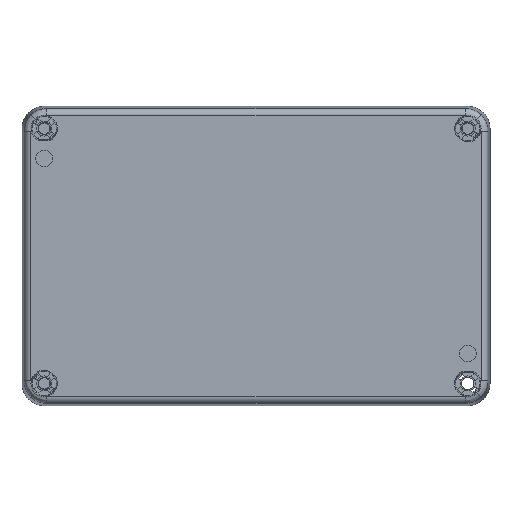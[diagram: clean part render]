
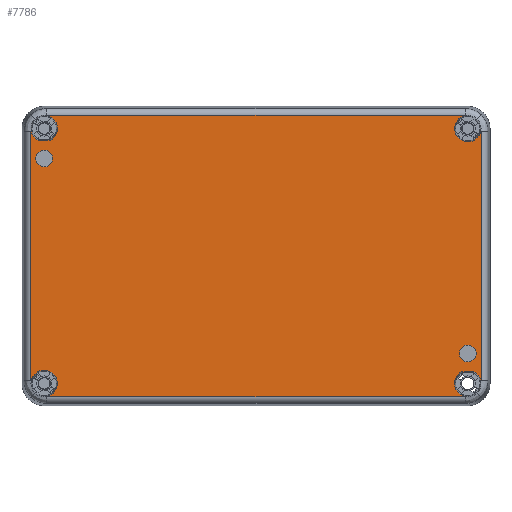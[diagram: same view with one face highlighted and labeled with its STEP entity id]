
A CAD part, front view. The second image highlights one B-rep face of the part: STEP entity #7786.
In plain terms, the highlighted planar face has unit normal (0, -1, 0).
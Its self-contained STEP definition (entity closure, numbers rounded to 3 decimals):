
#918=CARTESIAN_POINT('',(-56.5,-41.95,26.));
#919=DIRECTION('',(0.,1.,0.));
#920=DIRECTION('',(0.,0.,-1.));
#921=AXIS2_PLACEMENT_3D('',#918,#919,#920);
#926=CARTESIAN_POINT('',(-56.5,-41.95,26.));
#927=DIRECTION('',(0.,1.,0.));
#928=DIRECTION('',(0.,0.,1.));
#929=AXIS2_PLACEMENT_3D('',#926,#927,#928);
#934=CARTESIAN_POINT('',(56.5,-41.95,-26.));
#935=DIRECTION('',(0.,-1.,0.));
#936=DIRECTION('',(0.,0.,-1.));
#937=AXIS2_PLACEMENT_3D('',#934,#935,#936);
#942=CARTESIAN_POINT('',(56.5,-41.95,-26.));
#943=DIRECTION('',(0.,-1.,0.));
#944=DIRECTION('',(0.,0.,1.));
#945=AXIS2_PLACEMENT_3D('',#942,#943,#944);
#950=CARTESIAN_POINT('',(-60.055,-41.95,-33.337));
#951=CARTESIAN_POINT('',(-60.055,-41.95,-33.426));
#952=CARTESIAN_POINT('',(-60.05,-41.95,-33.602));
#953=CARTESIAN_POINT('',(-60.033,-41.95,-33.776));
#954=CARTESIAN_POINT('',(-60.022,-41.95,-33.861));
#959=DIRECTION('',(0.,0.,-1.));
#960=VECTOR('',#959,66.673);
#961=CARTESIAN_POINT('',(-60.055,-41.95,33.337));
#962=LINE('',#961,#960);
#966=CARTESIAN_POINT('',(-60.022,-41.95,33.86));
#967=CARTESIAN_POINT('',(-60.032,-41.95,33.777));
#968=CARTESIAN_POINT('',(-60.05,-41.95,33.603));
#969=CARTESIAN_POINT('',(-60.055,-41.95,33.427));
#970=CARTESIAN_POINT('',(-60.055,-41.95,33.337));
#975=CARTESIAN_POINT('',(-56.5,-41.95,34.));
#976=DIRECTION('',(0.,-1.,0.));
#977=DIRECTION('',(-0.999,0.,-0.041));
#978=AXIS2_PLACEMENT_3D('',#975,#976,#977);
#983=DIRECTION('',(1.,0.,0.));
#984=VECTOR('',#983,3.144);
#985=CARTESIAN_POINT('',(-58.072,-41.95,30.845));
#986=LINE('',#985,#984);
#990=CARTESIAN_POINT('',(-56.5,-41.95,34.));
#991=DIRECTION('',(0.,-1.,0.));
#992=DIRECTION('',(0.446,0.,-0.895));
#993=AXIS2_PLACEMENT_3D('',#990,#991,#992);
#998=CARTESIAN_POINT('',(-55.856,-41.95,37.536));
#999=CARTESIAN_POINT('',(-55.924,-41.95,37.536));
#1000=CARTESIAN_POINT('',(-56.059,-41.95,37.533));
#1001=CARTESIAN_POINT('',(-56.192,-41.95,37.523));
#1002=CARTESIAN_POINT('',(-56.258,-41.95,37.517));
#1007=DIRECTION('',(-1.,0.,0.));
#1008=VECTOR('',#1007,111.712);
#1009=CARTESIAN_POINT('',(55.856,-41.95,37.536));
#1010=LINE('',#1009,#1008);
#1014=CARTESIAN_POINT('',(56.257,-41.95,37.516));
#1015=CARTESIAN_POINT('',(56.194,-41.95,37.522));
#1016=CARTESIAN_POINT('',(56.059,-41.95,37.533));
#1017=CARTESIAN_POINT('',(55.925,-41.95,37.536));
#1018=CARTESIAN_POINT('',(55.856,-41.95,37.536));
#1023=CARTESIAN_POINT('',(56.5,-41.95,34.));
#1024=DIRECTION('',(0.,-1.,0.));
#1025=DIRECTION('',(-0.07,0.,0.998));
#1026=AXIS2_PLACEMENT_3D('',#1023,#1024,#1025);
#1031=CARTESIAN_POINT('',(56.5,-41.95,34.));
#1032=DIRECTION('',(0.,-1.,0.));
#1033=DIRECTION('',(-1.,0.,0.));
#1034=AXIS2_PLACEMENT_3D('',#1031,#1032,#1033);
#1039=CARTESIAN_POINT('',(60.055,-41.95,33.337));
#1040=CARTESIAN_POINT('',(60.055,-41.95,33.426));
#1041=CARTESIAN_POINT('',(60.05,-41.95,33.602));
#1042=CARTESIAN_POINT('',(60.033,-41.95,33.776));
#1043=CARTESIAN_POINT('',(60.022,-41.95,33.861));
#1048=DIRECTION('',(0.,0.,1.));
#1049=VECTOR('',#1048,66.673);
#1050=CARTESIAN_POINT('',(60.055,-41.95,-33.337));
#1051=LINE('',#1050,#1049);
#1055=CARTESIAN_POINT('',(60.022,-41.95,-33.86));
#1056=CARTESIAN_POINT('',(60.032,-41.95,-33.777));
#1057=CARTESIAN_POINT('',(60.05,-41.95,-33.603));
#1058=CARTESIAN_POINT('',(60.055,-41.95,-33.427));
#1059=CARTESIAN_POINT('',(60.055,-41.95,-33.337));
#1064=CARTESIAN_POINT('',(56.5,-41.95,-34.));
#1065=DIRECTION('',(0.,-1.,0.));
#1066=DIRECTION('',(0.999,0.,0.041));
#1067=AXIS2_PLACEMENT_3D('',#1064,#1065,#1066);
#1072=DIRECTION('',(-1.,0.,0.));
#1073=VECTOR('',#1072,3.144);
#1074=CARTESIAN_POINT('',(58.072,-41.95,-30.845));
#1075=LINE('',#1074,#1073);
#1079=CARTESIAN_POINT('',(56.5,-41.95,-34.));
#1080=DIRECTION('',(0.,-1.,0.));
#1081=DIRECTION('',(-0.446,0.,0.895));
#1082=AXIS2_PLACEMENT_3D('',#1079,#1080,#1081);
#1087=CARTESIAN_POINT('',(55.856,-41.95,-37.536));
#1088=CARTESIAN_POINT('',(55.924,-41.95,-37.536));
#1089=CARTESIAN_POINT('',(56.059,-41.95,-37.533));
#1090=CARTESIAN_POINT('',(56.192,-41.95,-37.523));
#1091=CARTESIAN_POINT('',(56.258,-41.95,-37.517));
#1096=DIRECTION('',(1.,0.,0.));
#1097=VECTOR('',#1096,111.712);
#1098=CARTESIAN_POINT('',(-55.856,-41.95,-37.536));
#1099=LINE('',#1098,#1097);
#1103=CARTESIAN_POINT('',(-56.257,-41.95,-37.516));
#1104=CARTESIAN_POINT('',(-56.194,-41.95,-37.522));
#1105=CARTESIAN_POINT('',(-56.059,-41.95,-37.533));
#1106=CARTESIAN_POINT('',(-55.925,-41.95,-37.536));
#1107=CARTESIAN_POINT('',(-55.856,-41.95,-37.536));
#1112=CARTESIAN_POINT('',(-56.5,-41.95,-34.));
#1113=DIRECTION('',(0.,-1.,0.));
#1114=DIRECTION('',(0.07,0.,-0.998));
#1115=AXIS2_PLACEMENT_3D('',#1112,#1113,#1114);
#1120=CARTESIAN_POINT('',(-56.5,-41.95,-34.));
#1121=DIRECTION('',(0.,-1.,0.));
#1122=DIRECTION('',(1.,0.,0.));
#1123=AXIS2_PLACEMENT_3D('',#1120,#1121,#1122);
#7088=CARTESIAN_POINT('',(-56.5,-41.95,23.76));
#7089=CARTESIAN_POINT('',(-56.5,-41.95,28.24));
#7090=VERTEX_POINT('',#7088);
#7091=VERTEX_POINT('',#7089);
#7096=CARTESIAN_POINT('',(56.5,-41.95,-28.24));
#7097=CARTESIAN_POINT('',(56.5,-41.95,-23.76));
#7098=VERTEX_POINT('',#7096);
#7099=VERTEX_POINT('',#7097);
#7114=VERTEX_POINT('',#950);
#7115=VERTEX_POINT('',#954);
#7118=CARTESIAN_POINT('',(-60.055,-41.95,33.337));
#7119=VERTEX_POINT('',#7118);
#7122=VERTEX_POINT('',#998);
#7123=VERTEX_POINT('',#1002);
#7126=VERTEX_POINT('',#966);
#7127=CARTESIAN_POINT('',(55.856,-41.95,37.536));
#7128=VERTEX_POINT('',#7127);
#7131=VERTEX_POINT('',#1014);
#7133=VERTEX_POINT('',#1039);
#7134=VERTEX_POINT('',#1043);
#7136=CARTESIAN_POINT('',(60.055,-41.95,-33.337));
#7137=VERTEX_POINT('',#7136);
#7140=VERTEX_POINT('',#1087);
#7141=VERTEX_POINT('',#1091);
#7144=VERTEX_POINT('',#1103);
#7145=VERTEX_POINT('',#1107);
#7147=VERTEX_POINT('',#1055);
#7182=CARTESIAN_POINT('',(58.072,-41.95,-30.845));
#7183=CARTESIAN_POINT('',(54.928,-41.95,-30.845));
#7184=VERTEX_POINT('',#7182);
#7185=VERTEX_POINT('',#7183);
#7210=CARTESIAN_POINT('',(-52.975,-41.95,-34.));
#7212=VERTEX_POINT('',#7210);
#7236=CARTESIAN_POINT('',(-58.072,-41.95,30.845));
#7237=CARTESIAN_POINT('',(-54.928,-41.95,30.845));
#7238=VERTEX_POINT('',#7236);
#7239=VERTEX_POINT('',#7237);
#7264=CARTESIAN_POINT('',(52.975,-41.95,34.));
#7266=VERTEX_POINT('',#7264);
#7723=CARTESIAN_POINT('',(0.,-41.95,0.));
#7724=DIRECTION('',(0.,-1.,0.));
#7725=DIRECTION('',(1.,0.,0.));
#7726=AXIS2_PLACEMENT_3D('',#7723,#7724,#7725);
#7727=PLANE('',#7726);
#7729=ORIENTED_EDGE('',*,*,#7728,.F.);
#7731=ORIENTED_EDGE('',*,*,#7730,.F.);
#7733=ORIENTED_EDGE('',*,*,#7732,.F.);
#7735=ORIENTED_EDGE('',*,*,#7734,.T.);
#7737=ORIENTED_EDGE('',*,*,#7736,.T.);
#7739=ORIENTED_EDGE('',*,*,#7738,.T.);
#7741=ORIENTED_EDGE('',*,*,#7740,.F.);
#7743=ORIENTED_EDGE('',*,*,#7742,.F.);
#7745=ORIENTED_EDGE('',*,*,#7744,.F.);
#7747=ORIENTED_EDGE('',*,*,#7746,.T.);
#7749=ORIENTED_EDGE('',*,*,#7748,.T.);
#7751=ORIENTED_EDGE('',*,*,#7750,.F.);
#7753=ORIENTED_EDGE('',*,*,#7752,.F.);
#7755=ORIENTED_EDGE('',*,*,#7754,.F.);
#7757=ORIENTED_EDGE('',*,*,#7756,.T.);
#7759=ORIENTED_EDGE('',*,*,#7758,.T.);
#7761=ORIENTED_EDGE('',*,*,#7760,.T.);
#7763=ORIENTED_EDGE('',*,*,#7762,.F.);
#7765=ORIENTED_EDGE('',*,*,#7764,.F.);
#7767=ORIENTED_EDGE('',*,*,#7766,.F.);
#7769=ORIENTED_EDGE('',*,*,#7768,.T.);
#7771=ORIENTED_EDGE('',*,*,#7770,.T.);
#7772=EDGE_LOOP('',(#7729,#7731,#7733,#7735,#7737,#7739,#7741,#7743,#7745,#7747,
#7749,#7751,#7753,#7755,#7757,#7759,#7761,#7763,#7765,#7767,#7769,#7771));
#7773=FACE_OUTER_BOUND('',#7772,.F.);
#7775=ORIENTED_EDGE('',*,*,#7774,.T.);
#7777=ORIENTED_EDGE('',*,*,#7776,.T.);
#7778=EDGE_LOOP('',(#7775,#7777));
#7779=FACE_BOUND('',#7778,.F.);
#7781=ORIENTED_EDGE('',*,*,#7780,.F.);
#7783=ORIENTED_EDGE('',*,*,#7782,.F.);
#7784=EDGE_LOOP('',(#7781,#7783));
#7785=FACE_BOUND('',#7784,.F.);
#922=CIRCLE('',#921,2.24);
#930=CIRCLE('',#929,2.24);
#938=CIRCLE('',#937,2.24);
#946=CIRCLE('',#945,2.24);
#955=B_SPLINE_CURVE_WITH_KNOTS('',3,(#950,#951,#952,#953,#954),.UNSPECIFIED.,
.F.,.F.,(4,1,4),(0.,0.5,1.),.UNSPECIFIED.);
#971=B_SPLINE_CURVE_WITH_KNOTS('',3,(#966,#967,#968,#969,#970),.UNSPECIFIED.,
.F.,.F.,(4,1,4),(0.,0.5,1.),.UNSPECIFIED.);
#979=CIRCLE('',#978,3.525);
#994=CIRCLE('',#993,3.525);
#1003=B_SPLINE_CURVE_WITH_KNOTS('',3,(#998,#999,#1000,#1001,#1002),
.UNSPECIFIED.,.F.,.F.,(4,1,4),(0.,0.5,1.),.UNSPECIFIED.);
#1019=B_SPLINE_CURVE_WITH_KNOTS('',3,(#1014,#1015,#1016,#1017,#1018),
.UNSPECIFIED.,.F.,.F.,(4,1,4),(0.,0.5,1.),.UNSPECIFIED.);
#1027=CIRCLE('',#1026,3.525);
#1035=CIRCLE('',#1034,3.525);
#1044=B_SPLINE_CURVE_WITH_KNOTS('',3,(#1039,#1040,#1041,#1042,#1043),
.UNSPECIFIED.,.F.,.F.,(4,1,4),(0.,0.5,1.),.UNSPECIFIED.);
#1060=B_SPLINE_CURVE_WITH_KNOTS('',3,(#1055,#1056,#1057,#1058,#1059),
.UNSPECIFIED.,.F.,.F.,(4,1,4),(0.,0.5,1.),.UNSPECIFIED.);
#1068=CIRCLE('',#1067,3.525);
#1083=CIRCLE('',#1082,3.525);
#1092=B_SPLINE_CURVE_WITH_KNOTS('',3,(#1087,#1088,#1089,#1090,#1091),
.UNSPECIFIED.,.F.,.F.,(4,1,4),(0.,0.5,1.),.UNSPECIFIED.);
#1108=B_SPLINE_CURVE_WITH_KNOTS('',3,(#1103,#1104,#1105,#1106,#1107),
.UNSPECIFIED.,.F.,.F.,(4,1,4),(0.,0.5,1.),.UNSPECIFIED.);
#1116=CIRCLE('',#1115,3.525);
#1124=CIRCLE('',#1123,3.525);
#7728=EDGE_CURVE('',#7114,#7115,#955,.T.);
#7730=EDGE_CURVE('',#7119,#7114,#962,.T.);
#7732=EDGE_CURVE('',#7126,#7119,#971,.T.);
#7734=EDGE_CURVE('',#7126,#7238,#979,.T.);
#7736=EDGE_CURVE('',#7238,#7239,#986,.T.);
#7738=EDGE_CURVE('',#7239,#7123,#994,.T.);
#7740=EDGE_CURVE('',#7122,#7123,#1003,.T.);
#7742=EDGE_CURVE('',#7128,#7122,#1010,.T.);
#7744=EDGE_CURVE('',#7131,#7128,#1019,.T.);
#7746=EDGE_CURVE('',#7131,#7266,#1027,.T.);
#7748=EDGE_CURVE('',#7266,#7134,#1035,.T.);
#7750=EDGE_CURVE('',#7133,#7134,#1044,.T.);
#7752=EDGE_CURVE('',#7137,#7133,#1051,.T.);
#7754=EDGE_CURVE('',#7147,#7137,#1060,.T.);
#7756=EDGE_CURVE('',#7147,#7184,#1068,.T.);
#7758=EDGE_CURVE('',#7184,#7185,#1075,.T.);
#7760=EDGE_CURVE('',#7185,#7141,#1083,.T.);
#7762=EDGE_CURVE('',#7140,#7141,#1092,.T.);
#7764=EDGE_CURVE('',#7145,#7140,#1099,.T.);
#7766=EDGE_CURVE('',#7144,#7145,#1108,.T.);
#7768=EDGE_CURVE('',#7144,#7212,#1116,.T.);
#7770=EDGE_CURVE('',#7212,#7115,#1124,.T.);
#7774=EDGE_CURVE('',#7098,#7099,#938,.T.);
#7776=EDGE_CURVE('',#7099,#7098,#946,.T.);
#7780=EDGE_CURVE('',#7090,#7091,#922,.T.);
#7782=EDGE_CURVE('',#7091,#7090,#930,.T.);
#7786=ADVANCED_FACE('',(#7773,#7779,#7785),#7727,.T.);
